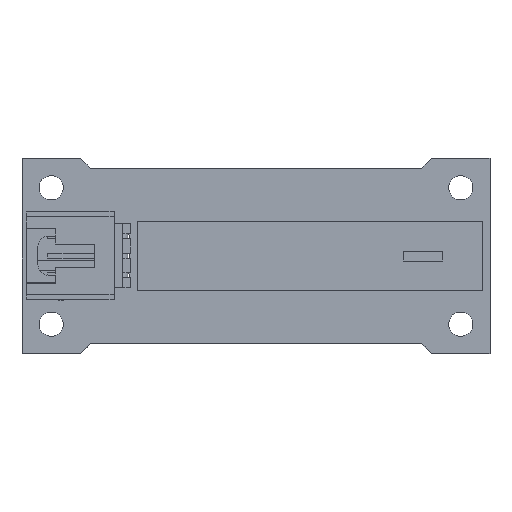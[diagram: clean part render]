
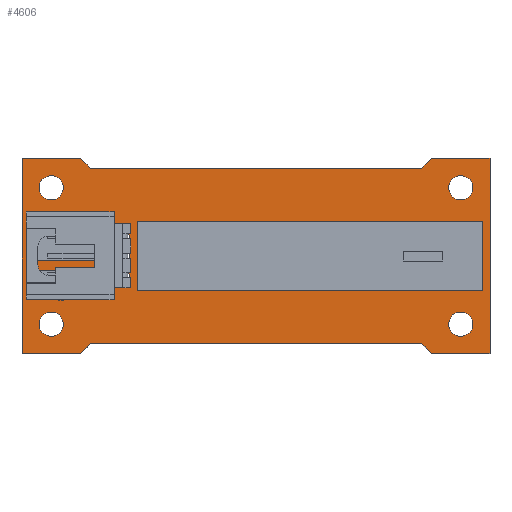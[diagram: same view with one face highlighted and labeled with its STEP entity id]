
A CAD part, top view. The second image highlights one B-rep face of the part: STEP entity #4606.
In plain terms, the highlighted planar face has unit normal (0, 0, 1).
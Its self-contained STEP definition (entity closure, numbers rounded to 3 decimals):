
#1172=CIRCLE('',#4786,1.588);
#1174=CIRCLE('',#4789,1.842);
#1176=CIRCLE('',#4792,0.545);
#1178=CIRCLE('',#4795,0.55);
#1180=CIRCLE('',#4798,1.842);
#1182=CIRCLE('',#4801,1.588);
#1184=CIRCLE('',#4804,0.545);
#1186=CIRCLE('',#4807,0.545);
#1188=CIRCLE('',#4810,0.55);
#1190=CIRCLE('',#4813,1.);
#1192=CIRCLE('',#4816,1.588);
#1194=CIRCLE('',#4819,0.55);
#1196=CIRCLE('',#4822,0.55);
#1198=CIRCLE('',#4825,0.55);
#1200=CIRCLE('',#4828,1.);
#1202=CIRCLE('',#4831,1.588);
#1204=CIRCLE('',#4834,0.55);
#1259=VERTEX_POINT('',#5878);
#1260=VERTEX_POINT('',#5880);
#1262=VERTEX_POINT('',#5886);
#1264=VERTEX_POINT('',#5892);
#1266=VERTEX_POINT('',#5898);
#1268=VERTEX_POINT('',#5904);
#1270=VERTEX_POINT('',#5910);
#1272=VERTEX_POINT('',#5916);
#1274=VERTEX_POINT('',#5922);
#1276=VERTEX_POINT('',#5928);
#1278=VERTEX_POINT('',#5934);
#1280=VERTEX_POINT('',#5940);
#1283=VERTEX_POINT('',#5950);
#1285=VERTEX_POINT('',#5956);
#1287=VERTEX_POINT('',#5962);
#1289=VERTEX_POINT('',#5968);
#1291=VERTEX_POINT('',#5974);
#1293=VERTEX_POINT('',#5980);
#1295=VERTEX_POINT('',#5986);
#1297=VERTEX_POINT('',#5992);
#1299=VERTEX_POINT('',#5998);
#1301=VERTEX_POINT('',#6004);
#1303=VERTEX_POINT('',#6010);
#1305=VERTEX_POINT('',#6016);
#1307=VERTEX_POINT('',#6022);
#1309=VERTEX_POINT('',#6028);
#1311=VERTEX_POINT('',#6034);
#1313=VERTEX_POINT('',#6040);
#1315=VERTEX_POINT('',#6046);
#1607=VECTOR('',#5048,1.);
#1610=VECTOR('',#5052,1.);
#1613=VECTOR('',#5056,1.);
#1616=VECTOR('',#5060,1.);
#1619=VECTOR('',#5064,1.);
#1622=VECTOR('',#5068,1.);
#1625=VECTOR('',#5072,1.);
#1628=VECTOR('',#5076,1.);
#1631=VECTOR('',#5080,1.);
#1634=VECTOR('',#5084,1.);
#1637=VECTOR('',#5088,1.);
#1640=VECTOR('',#5092,1.);
#2053=LINE('',#5879,#1607);
#2056=LINE('',#5885,#1610);
#2059=LINE('',#5891,#1613);
#2062=LINE('',#5897,#1616);
#2065=LINE('',#5903,#1619);
#2068=LINE('',#5909,#1622);
#2071=LINE('',#5915,#1625);
#2074=LINE('',#5921,#1628);
#2077=LINE('',#5927,#1631);
#2080=LINE('',#5933,#1634);
#2083=LINE('',#5939,#1637);
#2086=LINE('',#5945,#1640);
#2499=EDGE_CURVE('',#1259,#1260,#2053,.T.);
#2502=EDGE_CURVE('',#1260,#1262,#2056,.T.);
#2505=EDGE_CURVE('',#1262,#1264,#2059,.T.);
#2508=EDGE_CURVE('',#1264,#1266,#2062,.T.);
#2511=EDGE_CURVE('',#1266,#1268,#2065,.T.);
#2514=EDGE_CURVE('',#1268,#1270,#2068,.T.);
#2517=EDGE_CURVE('',#1270,#1272,#2071,.T.);
#2520=EDGE_CURVE('',#1272,#1274,#2074,.T.);
#2523=EDGE_CURVE('',#1274,#1276,#2077,.T.);
#2526=EDGE_CURVE('',#1276,#1278,#2080,.T.);
#2529=EDGE_CURVE('',#1278,#1280,#2083,.T.);
#2532=EDGE_CURVE('',#1280,#1259,#2086,.T.);
#2535=EDGE_CURVE('',#1283,#1283,#1172,.T.);
#2538=EDGE_CURVE('',#1285,#1285,#1174,.T.);
#2541=EDGE_CURVE('',#1287,#1287,#1176,.T.);
#2544=EDGE_CURVE('',#1289,#1289,#1178,.T.);
#2547=EDGE_CURVE('',#1291,#1291,#1180,.T.);
#2550=EDGE_CURVE('',#1293,#1293,#1182,.T.);
#2553=EDGE_CURVE('',#1295,#1295,#1184,.T.);
#2556=EDGE_CURVE('',#1297,#1297,#1186,.T.);
#2559=EDGE_CURVE('',#1299,#1299,#1188,.T.);
#2562=EDGE_CURVE('',#1301,#1301,#1190,.T.);
#2565=EDGE_CURVE('',#1303,#1303,#1192,.T.);
#2568=EDGE_CURVE('',#1305,#1305,#1194,.T.);
#2571=EDGE_CURVE('',#1307,#1307,#1196,.T.);
#2574=EDGE_CURVE('',#1309,#1309,#1198,.T.);
#2577=EDGE_CURVE('',#1311,#1311,#1200,.T.);
#2580=EDGE_CURVE('',#1313,#1313,#1202,.T.);
#2583=EDGE_CURVE('',#1315,#1315,#1204,.T.);
#3177=ORIENTED_EDGE('',*,*,#2532,.F.);
#3178=ORIENTED_EDGE('',*,*,#2529,.F.);
#3179=ORIENTED_EDGE('',*,*,#2526,.F.);
#3180=ORIENTED_EDGE('',*,*,#2523,.F.);
#3181=ORIENTED_EDGE('',*,*,#2520,.F.);
#3182=ORIENTED_EDGE('',*,*,#2517,.F.);
#3183=ORIENTED_EDGE('',*,*,#2514,.F.);
#3184=ORIENTED_EDGE('',*,*,#2511,.F.);
#3185=ORIENTED_EDGE('',*,*,#2508,.F.);
#3186=ORIENTED_EDGE('',*,*,#2505,.F.);
#3187=ORIENTED_EDGE('',*,*,#2502,.F.);
#3188=ORIENTED_EDGE('',*,*,#2499,.F.);
#3189=ORIENTED_EDGE('',*,*,#2535,.F.);
#3190=ORIENTED_EDGE('',*,*,#2538,.F.);
#3191=ORIENTED_EDGE('',*,*,#2541,.F.);
#3192=ORIENTED_EDGE('',*,*,#2544,.F.);
#3193=ORIENTED_EDGE('',*,*,#2547,.F.);
#3194=ORIENTED_EDGE('',*,*,#2550,.F.);
#3195=ORIENTED_EDGE('',*,*,#2553,.F.);
#3196=ORIENTED_EDGE('',*,*,#2556,.F.);
#3197=ORIENTED_EDGE('',*,*,#2559,.F.);
#3198=ORIENTED_EDGE('',*,*,#2562,.F.);
#3199=ORIENTED_EDGE('',*,*,#2565,.F.);
#3200=ORIENTED_EDGE('',*,*,#2568,.F.);
#3201=ORIENTED_EDGE('',*,*,#2571,.F.);
#3202=ORIENTED_EDGE('',*,*,#2574,.F.);
#3203=ORIENTED_EDGE('',*,*,#2577,.F.);
#3204=ORIENTED_EDGE('',*,*,#2580,.F.);
#3205=ORIENTED_EDGE('',*,*,#2583,.F.);
#4147=EDGE_LOOP('',(#3177,#3178,#3179,#3180,#3181,#3182,#3183,#3184,#3185,
#3186,#3187,#3188));
#4148=EDGE_LOOP('',(#3189));
#4149=EDGE_LOOP('',(#3190));
#4150=EDGE_LOOP('',(#3191));
#4151=EDGE_LOOP('',(#3192));
#4152=EDGE_LOOP('',(#3193));
#4153=EDGE_LOOP('',(#3194));
#4154=EDGE_LOOP('',(#3195));
#4155=EDGE_LOOP('',(#3196));
#4156=EDGE_LOOP('',(#3197));
#4157=EDGE_LOOP('',(#3198));
#4158=EDGE_LOOP('',(#3199));
#4159=EDGE_LOOP('',(#3200));
#4160=EDGE_LOOP('',(#3201));
#4161=EDGE_LOOP('',(#3202));
#4162=EDGE_LOOP('',(#3203));
#4163=EDGE_LOOP('',(#3204));
#4164=EDGE_LOOP('',(#3205));
#4385=FACE_BOUND('',#4147,.T.);
#4386=FACE_BOUND('',#4148,.T.);
#4387=FACE_BOUND('',#4149,.T.);
#4388=FACE_BOUND('',#4150,.T.);
#4389=FACE_BOUND('',#4151,.T.);
#4390=FACE_BOUND('',#4152,.T.);
#4391=FACE_BOUND('',#4153,.T.);
#4392=FACE_BOUND('',#4154,.T.);
#4393=FACE_BOUND('',#4155,.T.);
#4394=FACE_BOUND('',#4156,.T.);
#4395=FACE_BOUND('',#4157,.T.);
#4396=FACE_BOUND('',#4158,.T.);
#4397=FACE_BOUND('',#4159,.T.);
#4398=FACE_BOUND('',#4160,.T.);
#4399=FACE_BOUND('',#4161,.T.);
#4400=FACE_BOUND('',#4162,.T.);
#4401=FACE_BOUND('',#4163,.T.);
#4402=FACE_BOUND('',#4164,.T.);
#4606=ADVANCED_FACE('',(#4385,#4386,#4387,#4388,#4389,#4390,#4391,#4392,
#4393,#4394,#4395,#4396,#4397,#4398,#4399,#4400,#4401,#4402),#7275,.T.);
#4786=AXIS2_PLACEMENT_3D('',#5951,#5097,#5098);
#4789=AXIS2_PLACEMENT_3D('',#5957,#5104,#5105);
#4792=AXIS2_PLACEMENT_3D('',#5963,#5111,#5112);
#4795=AXIS2_PLACEMENT_3D('',#5969,#5118,#5119);
#4798=AXIS2_PLACEMENT_3D('',#5975,#5125,#5126);
#4801=AXIS2_PLACEMENT_3D('',#5981,#5132,#5133);
#4804=AXIS2_PLACEMENT_3D('',#5987,#5139,#5140);
#4807=AXIS2_PLACEMENT_3D('',#5993,#5146,#5147);
#4810=AXIS2_PLACEMENT_3D('',#5999,#5153,#5154);
#4813=AXIS2_PLACEMENT_3D('',#6005,#5160,#5161);
#4816=AXIS2_PLACEMENT_3D('',#6011,#5167,#5168);
#4819=AXIS2_PLACEMENT_3D('',#6017,#5174,#5175);
#4822=AXIS2_PLACEMENT_3D('',#6023,#5181,#5182);
#4825=AXIS2_PLACEMENT_3D('',#6029,#5188,#5189);
#4828=AXIS2_PLACEMENT_3D('',#6035,#5195,#5196);
#4831=AXIS2_PLACEMENT_3D('',#6041,#5202,#5203);
#4834=AXIS2_PLACEMENT_3D('',#6047,#5209,#5210);
#4837=AXIS2_PLACEMENT_3D('',#6050,#5214,$);
#5048=DIRECTION('',(0.,1.,0.));
#5052=DIRECTION('',(1.,0.,0.));
#5056=DIRECTION('',(0.707,-0.707,0.));
#5060=DIRECTION('',(1.,0.,0.));
#5064=DIRECTION('',(0.707,0.707,0.));
#5068=DIRECTION('',(1.,0.,0.));
#5072=DIRECTION('',(0.,-1.,0.));
#5076=DIRECTION('',(-1.,0.,0.));
#5080=DIRECTION('',(-0.707,0.707,0.));
#5084=DIRECTION('',(-1.,0.,0.));
#5088=DIRECTION('',(-0.707,-0.707,0.));
#5092=DIRECTION('',(-1.,0.,0.));
#5097=DIRECTION('',(0.,0.,1.));
#5098=DIRECTION('',(1.588,0.,0.));
#5104=DIRECTION('',(0.,0.,1.));
#5105=DIRECTION('',(1.842,0.,0.));
#5111=DIRECTION('',(0.,0.,1.));
#5112=DIRECTION('',(0.545,0.,0.));
#5118=DIRECTION('',(0.,0.,1.));
#5119=DIRECTION('',(0.55,0.,0.));
#5125=DIRECTION('',(0.,0.,1.));
#5126=DIRECTION('',(1.842,0.,0.));
#5132=DIRECTION('',(0.,0.,1.));
#5133=DIRECTION('',(1.588,0.,0.));
#5139=DIRECTION('',(0.,0.,1.));
#5140=DIRECTION('',(0.545,0.,0.));
#5146=DIRECTION('',(0.,0.,1.));
#5147=DIRECTION('',(0.545,0.,0.));
#5153=DIRECTION('',(0.,0.,1.));
#5154=DIRECTION('',(0.55,0.,0.));
#5160=DIRECTION('',(0.,0.,1.));
#5161=DIRECTION('',(1.,0.,0.));
#5167=DIRECTION('',(0.,0.,1.));
#5168=DIRECTION('',(1.588,0.,0.));
#5174=DIRECTION('',(0.,0.,1.));
#5175=DIRECTION('',(0.55,0.,0.));
#5181=DIRECTION('',(0.,0.,1.));
#5182=DIRECTION('',(0.55,0.,0.));
#5188=DIRECTION('',(0.,0.,1.));
#5189=DIRECTION('',(0.55,0.,0.));
#5195=DIRECTION('',(0.,0.,1.));
#5196=DIRECTION('',(1.,0.,0.));
#5202=DIRECTION('',(0.,0.,1.));
#5203=DIRECTION('',(1.588,0.,0.));
#5209=DIRECTION('',(0.,0.,1.));
#5210=DIRECTION('',(0.55,0.,0.));
#5214=DIRECTION('',(0.,0.,1.));
#5878=CARTESIAN_POINT('',(0.,0.,0.));
#5879=CARTESIAN_POINT('',(0.,0.,0.));
#5880=CARTESIAN_POINT('',(0.,25.4,0.));
#5885=CARTESIAN_POINT('',(0.,25.4,0.));
#5886=CARTESIAN_POINT('',(7.62,25.4,0.));
#5891=CARTESIAN_POINT('',(7.62,25.4,0.));
#5892=CARTESIAN_POINT('',(8.89,24.13,0.));
#5897=CARTESIAN_POINT('',(8.89,24.13,0.));
#5898=CARTESIAN_POINT('',(52.07,24.13,0.));
#5903=CARTESIAN_POINT('',(52.07,24.13,0.));
#5904=CARTESIAN_POINT('',(53.34,25.4,0.));
#5909=CARTESIAN_POINT('',(53.34,25.4,0.));
#5910=CARTESIAN_POINT('',(60.96,25.4,0.));
#5915=CARTESIAN_POINT('',(60.96,25.4,0.));
#5916=CARTESIAN_POINT('',(60.96,0.,0.));
#5921=CARTESIAN_POINT('',(60.96,0.,0.));
#5922=CARTESIAN_POINT('',(53.34,0.,0.));
#5927=CARTESIAN_POINT('',(53.34,0.,0.));
#5928=CARTESIAN_POINT('',(52.07,1.27,0.));
#5933=CARTESIAN_POINT('',(52.07,1.27,0.));
#5934=CARTESIAN_POINT('',(8.89,1.27,0.));
#5939=CARTESIAN_POINT('',(8.89,1.27,0.));
#5940=CARTESIAN_POINT('',(7.62,0.,0.));
#5945=CARTESIAN_POINT('',(7.62,0.,0.));
#5950=CARTESIAN_POINT('',(5.398,3.81,0.));
#5951=CARTESIAN_POINT('',(3.81,3.81,0.));
#5956=CARTESIAN_POINT('',(6.922,8.763,0.));
#5957=CARTESIAN_POINT('',(5.08,8.763,0.));
#5962=CARTESIAN_POINT('',(14.007,10.16,0.));
#5963=CARTESIAN_POINT('',(13.462,10.16,0.));
#5968=CARTESIAN_POINT('',(18.076,11.55,0.));
#5969=CARTESIAN_POINT('',(17.526,11.55,0.));
#5974=CARTESIAN_POINT('',(6.922,16.637,0.));
#5975=CARTESIAN_POINT('',(5.08,16.637,0.));
#5980=CARTESIAN_POINT('',(5.398,21.59,0.));
#5981=CARTESIAN_POINT('',(3.81,21.59,0.));
#5986=CARTESIAN_POINT('',(14.007,12.7,0.));
#5987=CARTESIAN_POINT('',(13.462,12.7,0.));
#5992=CARTESIAN_POINT('',(14.007,15.24,0.));
#5993=CARTESIAN_POINT('',(13.462,15.24,0.));
#5998=CARTESIAN_POINT('',(18.076,8.95,0.));
#5999=CARTESIAN_POINT('',(17.526,8.95,0.));
#6004=CARTESIAN_POINT('',(26.026,12.7,0.));
#6005=CARTESIAN_POINT('',(25.026,12.7,0.));
#6010=CARTESIAN_POINT('',(58.738,3.81,0.));
#6011=CARTESIAN_POINT('',(57.15,3.81,0.));
#6016=CARTESIAN_POINT('',(58.076,8.95,0.));
#6017=CARTESIAN_POINT('',(57.526,8.95,0.));
#6022=CARTESIAN_POINT('',(18.076,13.95,0.));
#6023=CARTESIAN_POINT('',(17.526,13.95,0.));
#6028=CARTESIAN_POINT('',(18.076,16.45,0.));
#6029=CARTESIAN_POINT('',(17.526,16.45,0.));
#6034=CARTESIAN_POINT('',(48.526,12.7,0.));
#6035=CARTESIAN_POINT('',(47.526,12.7,0.));
#6040=CARTESIAN_POINT('',(58.738,21.59,0.));
#6041=CARTESIAN_POINT('',(57.15,21.59,0.));
#6046=CARTESIAN_POINT('',(58.076,13.95,0.));
#6047=CARTESIAN_POINT('',(57.526,13.95,0.));
#6050=CARTESIAN_POINT('',(0.,0.,0.));
#7275=PLANE('',#4837);
